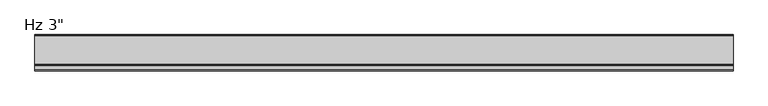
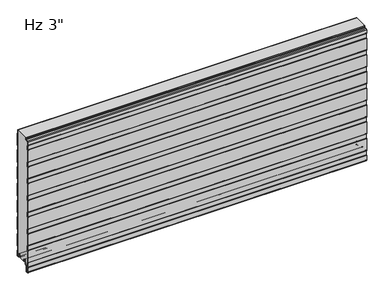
"""IFC4 building model written with IfcOpenShell, lengths in millimetres: plate geometry."""

from ifc_helpers import new_model, si_unit, point, frame, frame_2d, origin, place, context, project, spatial, polyline, circle_curve, trimmed, segment, composite_curve, outline, extrude, source, transform, mapped, element, save
from ifc_brep_helpers import plane_surface, cylinder_surface, revolved_surface, advanced_brep


def plate_3ed9eecc(model_context):
    return source(origin(), model_context, "Body", "SolidModel", [
        advanced_brep(
        [(-730.0, -17.0015368, 2.0313088), (-730.0, -18.00154, 1.0313116), (-730.0, -19.0015313, 2.0313088), (-730.0, -19.0015314, 6.0315125), (-730.0, -18.0015368, 6.0315125), (-730.0, -18.0015368, 8.7237223), (-730.0, -14.7015411, 12.023718), (-730.0, -10.3015499, 12.023718), (-730.0, -7.0015544, 8.7237225), (-730.0, -7.0015544, -1.6962564), (-730.0, -5.2315602, -3.4662506), (-730.0, -1.0000126, -3.4662506), (-730.0, -1.0000126, 21.034026), (-730.0, -2.2002516, 22.4196686), (-730.0, -2.2002516, 41.7948349), (-730.0, -1.0000209, 43.1804679), (-730.0, -1.0000209, 97.2338833), (-730.0, -2.2002516, 98.6195162), (-730.0, -2.2002516, 117.9946825), (-730.0, -1.0000209, 119.3803155), (-730.0, -1.0000209, 173.4337309), (-730.0, -2.2002516, 174.8193638), (-730.0, -2.2002516, 194.1945301), (-730.0, -1.0000209, 195.5801631), (-730.0, -1.0000209, 249.6335785), (-730.0, -2.2002516, 251.0192114), (-730.0, -2.2002516, 270.3943777), (-730.0, -1.0000209, 271.7800107), (-730.0, -1.0000209, 325.8334261), (-730.0, -2.2002516, 327.219059), (-730.0, -2.2002516, 346.5942253), (-730.0, -1.0000209, 347.9798583), (-730.0, -1.0000209, 402.0332737), (-730.0, -2.2002516, 403.4189066), (-730.0, -2.2002516, 422.7940729), (-730.0, -1.0000209, 424.1797059), (-730.0, -1.0000209, 478.2331213), (-730.0, -2.2002516, 479.6187542), (-730.0, -2.2002516, 498.9939205), (-730.0, -1.0000209, 500.3795535), (-730.0, -1.0000209, 554.4329689), (-730.0, -2.2002516, 555.8186018), (-730.0, -2.2002516, 571.2), (-730.0, -1.2002516, 571.2), (-730.0, -1.2002516, 556.1914823), (-730.0, -0.3418094, 555.2004346), (-730.0, -2.09e-05, 554.2838177), (-730.0, -2.09e-05, 500.5287046), (-730.0, -0.3418094, 499.6120877), (-730.0, -1.2002516, 498.6210401), (-730.0, -1.2002516, 479.9916347), (-730.0, -0.3418094, 479.000587), (-730.0, -2.09e-05, 478.0839701), (-730.0, -2.09e-05, 424.328857), (-730.0, -0.3418094, 423.4122401), (-730.0, -1.2002516, 422.4211925), (-730.0, -1.2002516, 403.7917871), (-730.0, -0.3418094, 402.8007394), (-730.0, -2.09e-05, 401.8841225), (-730.0, -2.09e-05, 348.1290094), (-730.0, -0.3418094, 347.2123925), (-730.0, -1.2002516, 346.2213449), (-730.0, -1.2002516, 327.5919395), (-730.0, -0.3418094, 326.6008918), (-730.0, -2.09e-05, 325.6842749), (-730.0, -2.09e-05, 271.9291618), (-730.0, -0.3418094, 271.0125449), (-730.0, -1.2002516, 270.0214973), (-730.0, -1.2002516, 251.3920919), (-730.0, -0.3418094, 250.4010442), (-730.0, -2.09e-05, 249.4844273), (-730.0, -2.09e-05, 195.7293142), (-730.0, -0.3418094, 194.8126973), (-730.0, -1.2002516, 193.8216497), (-730.0, -1.2002516, 175.1922443), (-730.0, -0.3418094, 174.2011966), (-730.0, -2.09e-05, 173.2845797), (-730.0, -2.09e-05, 119.5294666), (-730.0, -0.3418094, 118.6128497), (-730.0, -1.2002516, 117.6218021), (-730.0, -1.2002516, 98.9923967), (-730.0, -0.3418094, 98.001349), (-730.0, -2.09e-05, 97.0847321), (-730.0, -2.09e-05, 43.329619), (-730.0, -0.3418094, 42.4130021), (-730.0, -1.2002516, 41.4219545), (-730.0, -1.2002516, 22.7925491), (-730.0, -0.3418094, 21.8015014), (-730.0, -2.09e-05, 20.8847931), (-730.0, -1.26e-05, -3.0662545), (-730.0, -1.4000087, -4.4662506), (-730.0, -5.2315602, -4.4662506), (-730.0, -8.0015544, -1.6962564), (-730.0, -8.0015544, 8.7237225), (-730.0, -10.3015499, 11.023718), (-730.0, -14.7015411, 11.023718), (-730.0, -17.0015368, 8.7237223), (730.0, -17.0015368, 2.0313088), (730.0, -17.0015368, 8.7237223), (730.0, -14.7015411, 11.023718), (730.0, -10.3015499, 11.023718), (730.0, -8.0015544, 8.7237225), (730.0, -8.0015544, -1.6962564), (730.0, -5.2315602, -4.4662506), (730.0, -1.4000087, -4.4662506), (730.0, -1.26e-05, -3.0662545), (730.0, -1.26e-05, 20.8848845), (730.0, -0.3418094, 21.8015014), (730.0, -1.2002516, 22.7925491), (730.0, -1.2002516, 41.4219545), (730.0, -0.3418094, 42.4130021), (730.0, -2.09e-05, 43.329619), (730.0, -2.09e-05, 97.0847321), (730.0, -0.3418094, 98.001349), (730.0, -1.2002516, 98.9923967), (730.0, -1.2002516, 117.6218021), (730.0, -0.3418094, 118.6128497), (730.0, -2.09e-05, 119.5294666), (730.0, -2.09e-05, 173.2845797), (730.0, -0.3418094, 174.2011966), (730.0, -1.2002516, 175.1922443), (730.0, -1.2002516, 193.8216497), (730.0, -0.3418094, 194.8126973), (730.0, -2.09e-05, 195.7293142), (730.0, -2.09e-05, 249.4844273), (730.0, -0.3418094, 250.4010442), (730.0, -1.2002516, 251.3920919), (730.0, -1.2002516, 270.0214973), (730.0, -0.3418094, 271.0125449), (730.0, -2.09e-05, 271.9291618), (730.0, -2.09e-05, 325.6842749), (730.0, -0.3418094, 326.6008918), (730.0, -1.2002516, 327.5919395), (730.0, -1.2002516, 346.2213449), (730.0, -0.3418094, 347.2123925), (730.0, -2.09e-05, 348.1290094), (730.0, -2.09e-05, 401.8841225), (730.0, -0.3418094, 402.8007394), (730.0, -1.2002516, 403.7917871), (730.0, -1.2002516, 422.4211925), (730.0, -0.3418094, 423.4122401), (730.0, -2.09e-05, 424.328857), (730.0, -2.09e-05, 478.0839701), (730.0, -0.3418094, 479.000587), (730.0, -1.2002516, 479.9916347), (730.0, -1.2002516, 498.6210401), (730.0, -0.3418094, 499.6120877), (730.0, -2.09e-05, 500.5287046), (730.0, -2.09e-05, 554.2838177), (730.0, -0.3418094, 555.2004346), (730.0, -1.2002516, 556.1914823), (730.0, -1.2002516, 571.2), (730.0, -2.2002516, 571.2), (730.0, -2.2002516, 555.8186018), (730.0, -1.0000209, 554.4329689), (730.0, -1.0000209, 500.3795535), (730.0, -2.2002516, 498.9939205), (730.0, -2.2002516, 479.6187542), (730.0, -1.0000209, 478.2331213), (730.0, -1.0000209, 424.1797059), (730.0, -2.2002516, 422.7940729), (730.0, -2.2002516, 403.4189066), (730.0, -1.0000209, 402.0332737), (730.0, -1.0000209, 347.9798583), (730.0, -2.2002516, 346.5942253), (730.0, -2.2002516, 327.219059), (730.0, -1.0000209, 325.8334261), (730.0, -1.0000209, 271.7800107), (730.0, -2.2002516, 270.3943777), (730.0, -2.2002516, 251.0192114), (730.0, -1.0000209, 249.6335785), (730.0, -1.0000209, 195.5801631), (730.0, -2.2002516, 194.1945301), (730.0, -2.2002516, 174.8193638), (730.0, -1.0000209, 173.4337309), (730.0, -1.0000209, 119.3803155), (730.0, -2.2002516, 117.9946825), (730.0, -2.2002516, 98.6195162), (730.0, -1.0000209, 97.2338833), (730.0, -1.0000209, 43.1804679), (730.0, -2.2002516, 41.7948349), (730.0, -2.2002516, 22.4196686), (730.0, -1.0000126, 21.034026), (730.0, -1.0000126, -3.4662506), (730.0, -5.2315602, -3.4662506), (730.0, -7.0015544, -1.6962564), (730.0, -7.0015544, 8.7237225), (730.0, -10.3015499, 12.023718), (730.0, -14.7015411, 12.023718), (730.0, -18.0015368, 8.7237223), (730.0, -18.0015368, 6.0315125), (730.0, -19.0015314, 6.0315125), (730.0, -19.0015314, 2.0313088), (730.0, -18.00154, 1.0313116)],
        [
            (0, 1, circle_curve(frame((-730.0, -18.0015341, 2.0313088), z_axis=(-1.0, 0.0, 0.0), x_axis=(0.0, 0.0, 1.0)), 0.9999973)),
            (1, 2, circle_curve(frame((-730.0, -18.0015341, 2.0313088), z_axis=(-1.0, 0.0, 0.0), x_axis=(0.0, 0.0, 1.0)), 0.9999972)),
            (2, 3),
            (3, 4),
            (4, 5),
            (5, 6, circle_curve(frame((-730.0, -14.7015411, 8.7237223), z_axis=(-1.0, 0.0, 0.0), x_axis=(0.0, 0.0, 1.0)), 3.2999957)),
            (6, 7),
            (7, 8, circle_curve(frame((-730.0, -10.3015499, 8.7237225), z_axis=(-1.0, 0.0, 0.0), x_axis=(0.0, 0.0, 1.0)), 3.2999955)),
            (8, 9),
            (9, 10, circle_curve(frame((-730.0, -5.2315602, -1.6962564), z_axis=(1.0, 0.0, 0.0), x_axis=(0.0, 0.0, 1.0)), 1.7699942)),
            (10, 11),
            (11, 12),
            (12, 13),
            (13, 14),
            (14, 15),
            (15, 16),
            (16, 17),
            (17, 18),
            (18, 19),
            (19, 20),
            (20, 21),
            (21, 22),
            (22, 23),
            (23, 24),
            (24, 25),
            (25, 26),
            (26, 27),
            (27, 28),
            (28, 29),
            (29, 30),
            (30, 31),
            (31, 32),
            (32, 33),
            (33, 34),
            (34, 35),
            (35, 36),
            (36, 37),
            (37, 38),
            (38, 39),
            (39, 40),
            (40, 41),
            (41, 42),
            (42, 43),
            (43, 44),
            (44, 45),
            (45, 46, circle_curve(frame((-730.0, -1.4000181, 554.2838177), z_axis=(-1.0, 0.0, 0.0), x_axis=(0.0, 0.0, 1.0)), 1.3999972)),
            (46, 47),
            (47, 48, circle_curve(frame((-730.0, -1.4000181, 500.5287046), z_axis=(-1.0, 0.0, 0.0), x_axis=(0.0, 0.0, 1.0)), 1.3999972)),
            (48, 49),
            (49, 50),
            (50, 51),
            (51, 52, circle_curve(frame((-730.0, -1.4000181, 478.0839701), z_axis=(-1.0, 0.0, 0.0), x_axis=(0.0, 0.0, 1.0)), 1.3999972)),
            (52, 53),
            (53, 54, circle_curve(frame((-730.0, -1.4000181, 424.328857), z_axis=(-1.0, 0.0, 0.0), x_axis=(0.0, 0.0, 1.0)), 1.3999972)),
            (54, 55),
            (55, 56),
            (56, 57),
            (57, 58, circle_curve(frame((-730.0, -1.4000181, 401.8841225), z_axis=(-1.0, 0.0, 0.0), x_axis=(0.0, 0.0, 1.0)), 1.3999972)),
            (58, 59),
            (59, 60, circle_curve(frame((-730.0, -1.4000181, 348.1290094), z_axis=(-1.0, 0.0, 0.0), x_axis=(0.0, 0.0, 1.0)), 1.3999972)),
            (60, 61),
            (61, 62),
            (62, 63),
            (63, 64, circle_curve(frame((-730.0, -1.4000181, 325.6842749), z_axis=(-1.0, 0.0, 0.0), x_axis=(0.0, 0.0, 1.0)), 1.3999972)),
            (64, 65),
            (65, 66, circle_curve(frame((-730.0, -1.4000181, 271.9291618), z_axis=(-1.0, 0.0, 0.0), x_axis=(0.0, 0.0, 1.0)), 1.3999972)),
            (66, 67),
            (67, 68),
            (68, 69),
            (69, 70, circle_curve(frame((-730.0, -1.4000181, 249.4844273), z_axis=(-1.0, 0.0, 0.0), x_axis=(0.0, 0.0, 1.0)), 1.3999972)),
            (70, 71),
            (71, 72, circle_curve(frame((-730.0, -1.4000181, 195.7293142), z_axis=(-1.0, 0.0, 0.0), x_axis=(0.0, 0.0, 1.0)), 1.3999972)),
            (72, 73),
            (73, 74),
            (74, 75),
            (75, 76, circle_curve(frame((-730.0, -1.4000181, 173.2845797), z_axis=(-1.0, 0.0, 0.0), x_axis=(0.0, 0.0, 1.0)), 1.3999972)),
            (76, 77),
            (77, 78, circle_curve(frame((-730.0, -1.4000181, 119.5294666), z_axis=(-1.0, 0.0, 0.0), x_axis=(0.0, 0.0, 1.0)), 1.3999972)),
            (78, 79),
            (79, 80),
            (80, 81),
            (81, 82, circle_curve(frame((-730.0, -1.4000181, 97.0847321), z_axis=(-1.0, 0.0, 0.0), x_axis=(0.0, 0.0, 1.0)), 1.3999972)),
            (82, 83),
            (83, 84, circle_curve(frame((-730.0, -1.4000181, 43.329619), z_axis=(-1.0, 0.0, 0.0), x_axis=(0.0, 0.0, 1.0)), 1.3999972)),
            (84, 85),
            (85, 86),
            (86, 87),
            (87, 88, circle_curve(frame((-730.0, -1.4000181, 20.8848845), z_axis=(-1.0, 0.0, 0.0), x_axis=(0.0, 0.0, 1.0)), 1.3999972)),
            (88, 89),
            (89, 90, circle_curve(frame((-730.0, -1.4000087, -3.0662545), z_axis=(-1.0, 0.0, 0.0), x_axis=(0.0, 0.0, 1.0)), 1.3999962)),
            (90, 91),
            (91, 92, circle_curve(frame((-730.0, -5.2315602, -1.6962564), z_axis=(-1.0, 0.0, 0.0), x_axis=(0.0, 0.0, 1.0)), 2.7699942)),
            (92, 93),
            (93, 94, circle_curve(frame((-730.0, -10.3015499, 8.7237225), z_axis=(1.0, 0.0, 0.0), x_axis=(0.0, 0.0, 1.0)), 2.2999955)),
            (94, 95),
            (95, 96, circle_curve(frame((-730.0, -14.7015411, 8.7237223), z_axis=(1.0, 0.0, 0.0), x_axis=(0.0, 0.0, 1.0)), 2.2999957)),
            (96, 0),
            (97, 98),
            (98, 99, circle_curve(frame((730.0, -14.7015411, 8.7237223), z_axis=(-1.0, 0.0, 0.0), x_axis=(0.0, 0.0, 1.0)), 2.2999957)),
            (99, 100),
            (100, 101, circle_curve(frame((730.0, -10.3015499, 8.7237225), z_axis=(-1.0, 0.0, 0.0), x_axis=(0.0, 0.0, 1.0)), 2.2999955)),
            (101, 102),
            (102, 103, circle_curve(frame((730.0, -5.2315602, -1.6962564), z_axis=(1.0, 0.0, 0.0), x_axis=(0.0, 0.0, 1.0)), 2.7699942)),
            (103, 104),
            (104, 105, circle_curve(frame((730.0, -1.4000087, -3.0662545), z_axis=(1.0, 0.0, 0.0), x_axis=(0.0, 0.0, 1.0)), 1.3999962)),
            (105, 106),
            (106, 107, circle_curve(frame((730.0, -1.4000181, 20.8848845), z_axis=(1.0, 0.0, 0.0), x_axis=(0.0, 0.0, 1.0)), 1.3999972)),
            (107, 108),
            (108, 109),
            (109, 110),
            (110, 111, circle_curve(frame((730.0, -1.4000181, 43.329619), z_axis=(1.0, 0.0, 0.0), x_axis=(0.0, 0.0, 1.0)), 1.3999972)),
            (111, 112),
            (112, 113, circle_curve(frame((730.0, -1.4000181, 97.0847321), z_axis=(1.0, 0.0, 0.0), x_axis=(0.0, 0.0, 1.0)), 1.3999972)),
            (113, 114),
            (114, 115),
            (115, 116),
            (116, 117, circle_curve(frame((730.0, -1.4000181, 119.5294666), z_axis=(1.0, 0.0, 0.0), x_axis=(0.0, 0.0, 1.0)), 1.3999972)),
            (117, 118),
            (118, 119, circle_curve(frame((730.0, -1.4000181, 173.2845797), z_axis=(1.0, 0.0, 0.0), x_axis=(0.0, 0.0, 1.0)), 1.3999972)),
            (119, 120),
            (120, 121),
            (121, 122),
            (122, 123, circle_curve(frame((730.0, -1.4000181, 195.7293142), z_axis=(1.0, 0.0, 0.0), x_axis=(0.0, 0.0, 1.0)), 1.3999972)),
            (123, 124),
            (124, 125, circle_curve(frame((730.0, -1.4000181, 249.4844273), z_axis=(1.0, 0.0, 0.0), x_axis=(0.0, 0.0, 1.0)), 1.3999972)),
            (125, 126),
            (126, 127),
            (127, 128),
            (128, 129, circle_curve(frame((730.0, -1.4000181, 271.9291618), z_axis=(1.0, 0.0, 0.0), x_axis=(0.0, 0.0, 1.0)), 1.3999972)),
            (129, 130),
            (130, 131, circle_curve(frame((730.0, -1.4000181, 325.6842749), z_axis=(1.0, 0.0, 0.0), x_axis=(0.0, 0.0, 1.0)), 1.3999972)),
            (131, 132),
            (132, 133),
            (133, 134),
            (134, 135, circle_curve(frame((730.0, -1.4000181, 348.1290094), z_axis=(1.0, 0.0, 0.0), x_axis=(0.0, 0.0, 1.0)), 1.3999972)),
            (135, 136),
            (136, 137, circle_curve(frame((730.0, -1.4000181, 401.8841225), z_axis=(1.0, 0.0, 0.0), x_axis=(0.0, 0.0, 1.0)), 1.3999972)),
            (137, 138),
            (138, 139),
            (139, 140),
            (140, 141, circle_curve(frame((730.0, -1.4000181, 424.328857), z_axis=(1.0, 0.0, 0.0), x_axis=(0.0, 0.0, 1.0)), 1.3999972)),
            (141, 142),
            (142, 143, circle_curve(frame((730.0, -1.4000181, 478.0839701), z_axis=(1.0, 0.0, 0.0), x_axis=(0.0, 0.0, 1.0)), 1.3999972)),
            (143, 144),
            (144, 145),
            (145, 146),
            (146, 147, circle_curve(frame((730.0, -1.4000181, 500.5287046), z_axis=(1.0, 0.0, 0.0), x_axis=(0.0, 0.0, 1.0)), 1.3999972)),
            (147, 148),
            (148, 149, circle_curve(frame((730.0, -1.4000181, 554.2838177), z_axis=(1.0, 0.0, 0.0), x_axis=(0.0, 0.0, 1.0)), 1.3999972)),
            (149, 150),
            (150, 151),
            (151, 152),
            (152, 153),
            (153, 154),
            (154, 155),
            (155, 156),
            (156, 157),
            (157, 158),
            (158, 159),
            (159, 160),
            (160, 161),
            (161, 162),
            (162, 163),
            (163, 164),
            (164, 165),
            (165, 166),
            (166, 167),
            (167, 168),
            (168, 169),
            (169, 170),
            (170, 171),
            (171, 172),
            (172, 173),
            (173, 174),
            (174, 175),
            (175, 176),
            (176, 177),
            (177, 178),
            (178, 179),
            (179, 180),
            (180, 181),
            (181, 182),
            (182, 183),
            (183, 184),
            (184, 185, circle_curve(frame((730.0, -5.2315602, -1.6962564), z_axis=(-1.0, 0.0, 0.0), x_axis=(0.0, 0.0, 1.0)), 1.7699942)),
            (185, 186),
            (186, 187, circle_curve(frame((730.0, -10.3015499, 8.7237225), z_axis=(1.0, 0.0, 0.0), x_axis=(0.0, 0.0, 1.0)), 3.2999955)),
            (187, 188),
            (188, 189, circle_curve(frame((730.0, -14.7015411, 8.7237223), z_axis=(1.0, 0.0, 0.0), x_axis=(0.0, 0.0, 1.0)), 3.2999957)),
            (189, 190),
            (190, 191),
            (191, 192),
            (192, 193, circle_curve(frame((730.0, -18.0015341, 2.0313088), z_axis=(1.0, 0.0, 0.0), x_axis=(0.0, 0.0, 1.0)), 0.9999972)),
            (193, 97, circle_curve(frame((730.0, -18.0015341, 2.0313088), z_axis=(1.0, 0.0, 0.0), x_axis=(0.0, 0.0, 1.0)), 0.9999973)),
            (96, 98),
            (97, 0),
            (95, 99),
            (94, 100),
            (93, 101),
            (92, 102),
            (91, 103),
            (90, 104),
            (89, 105),
            (88, 106),
            (70, 124),
            (123, 71),
            (87, 107),
            (86, 108),
            (85, 109),
            (83, 111),
            (110, 84),
            (81, 113),
            (112, 82),
            (66, 128),
            (127, 67),
            (122, 72),
            (121, 73),
            (76, 118),
            (117, 77),
            (69, 125),
            (68, 126),
            (65, 129),
            (116, 78),
            (79, 115),
            (114, 80),
            (75, 119),
            (74, 120),
            (2, 192),
            (191, 3),
            (1, 193),
            (64, 130),
            (63, 131),
            (62, 132),
            (61, 133),
            (60, 134),
            (59, 135),
            (58, 136),
            (31, 163),
            (162, 32),
            (30, 164),
            (29, 165),
            (28, 166),
            (27, 167),
            (26, 168),
            (25, 169),
            (24, 170),
            (23, 171),
            (22, 172),
            (21, 173),
            (20, 174),
            (19, 175),
            (18, 176),
            (17, 177),
            (16, 178),
            (15, 179),
            (14, 180),
            (13, 181),
            (12, 182),
            (11, 183),
            (10, 184),
            (9, 185),
            (8, 186),
            (7, 187),
            (6, 188),
            (5, 189),
            (4, 190),
            (42, 152),
            (151, 43),
            (57, 137),
            (56, 138),
            (54, 140),
            (139, 55),
            (51, 143),
            (142, 52),
            (50, 144),
            (48, 146),
            (145, 49),
            (45, 149),
            (148, 46),
            (44, 150),
            (41, 153),
            (40, 154),
            (39, 155),
            (38, 156),
            (53, 141),
            (47, 147),
            (37, 157),
            (36, 158),
            (35, 159),
            (34, 160),
            (33, 161),
        ],
        [
            plane_surface(frame((-730.0, -2.09e-05, 304.8), z_axis=(-1.0, 0.0, 0.0), x_axis=(0.0, 1.0, 0.0))),
            plane_surface(frame((730.0, -2.09e-05, 304.8), z_axis=(1.0, 0.0, 0.0), x_axis=(0.0, 1.0, 0.0))),
            plane_surface(frame((-730.0, -17.0015368, 2.0313088), z_axis=(0.0, 1.0, 0.0), x_axis=(1.0, 0.0, 0.0))),
            revolved_surface(polyline([(730.0, -14.7015411, 11.023718), (-730.0, -14.7015411, 11.023718)]), (-730.0, -14.7015411, 8.7237223), (1.0, 0.0, 0.0)),
            plane_surface(frame((-730.0, -14.7015411, 11.023718), z_axis=(0.0, 0.0, -1.0), x_axis=(1.0, 0.0, 0.0))),
            revolved_surface(polyline([(730.0, -10.3015499, 11.023717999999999), (-730.0, -10.3015499, 11.023717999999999)]), (-730.0, -10.3015499, 8.7237225), (1.0, 0.0, 0.0)),
            plane_surface(frame((-730.0, -8.0015544, 8.7237225), z_axis=(0.0, -1.0, 0.0), x_axis=(1.0, 0.0, 0.0))),
            cylinder_surface(frame((-730.0, -5.2315602, -1.6962564), z_axis=(-1.0, 0.0, 0.0), x_axis=(0.0, 0.0, 1.0)), 2.7699942),
            plane_surface(frame((-730.0, -5.2315602, -4.4662506), z_axis=(0.0, 0.0, -1.0), x_axis=(1.0, 0.0, 0.0))),
            cylinder_surface(frame((-730.0, -1.4000087, -3.0662545), z_axis=(-1.0, 0.0, 0.0), x_axis=(0.0, 0.0, 1.0)), 1.3999962),
            plane_surface(frame((-730.0, -1.26e-05, -3.0662545), z_axis=(0.0, 1.0, 0.0), x_axis=(1.0, 0.0, 0.0))),
            plane_surface(frame((-730.0, -2.09e-05, 195.7293142), z_axis=(0.0, 1.0, 0.0), x_axis=(1.0, 0.0, 0.0))),
            cylinder_surface(frame((-730.0, -1.4000181, 20.8848845), z_axis=(-1.0, 0.0, 0.0), x_axis=(0.0, 0.0, 1.0)), 1.3999972),
            plane_surface(frame((-730.0, -0.3418094, 21.8015014), z_axis=(0.0, 0.755864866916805, 0.6547276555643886), x_axis=(1.0, 0.0, 0.0))),
            plane_surface(frame((-730.0, -1.2002516, 32.1072518), z_axis=(0.0, 1.0, 0.0), x_axis=(1.0, 0.0, 0.0))),
            cylinder_surface(frame((-730.0, -1.4000181, 43.329619), z_axis=(-1.0, 0.0, 0.0), x_axis=(0.0, 0.0, 1.0)), 1.3999972),
            plane_surface(frame((-730.0, -1.2002516, 41.4219545), z_axis=(0.0, 0.755864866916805, -0.6547276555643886), x_axis=(1.0, 0.0, 0.0))),
            cylinder_surface(frame((-730.0, -1.4000181, 97.0847321), z_axis=(-1.0, 0.0, 0.0), x_axis=(0.0, 0.0, 1.0)), 1.3999972),
            plane_surface(frame((-730.0, -1.2002516, 270.0214973), z_axis=(0.0, 0.755864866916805, -0.6547276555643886), x_axis=(1.0, 0.0, 0.0))),
            cylinder_surface(frame((-730.0, -1.4000181, 195.7293142), z_axis=(-1.0, 0.0, 0.0), x_axis=(0.0, 0.0, 1.0)), 1.3999972),
            plane_surface(frame((-730.0, -1.2002516, 193.8216497), z_axis=(0.0, 0.755864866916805, -0.6547276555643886), x_axis=(1.0, 0.0, 0.0))),
            plane_surface(frame((-730.0, -2.09e-05, 119.5294666), z_axis=(0.0, 1.0, 0.0), x_axis=(1.0, 0.0, 0.0))),
            cylinder_surface(frame((-730.0, -1.4000181, 249.4844273), z_axis=(-1.0, 0.0, 0.0), x_axis=(0.0, 0.0, 1.0)), 1.3999972),
            plane_surface(frame((-730.0, -0.3418094, 250.4010442), z_axis=(0.0, 0.755864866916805, 0.6547276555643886), x_axis=(1.0, 0.0, 0.0))),
            plane_surface(frame((-730.0, -1.2002516, 260.7067946), z_axis=(0.0, 1.0, 0.0), x_axis=(1.0, 0.0, 0.0))),
            cylinder_surface(frame((-730.0, -1.4000181, 271.9291618), z_axis=(-1.0, 0.0, 0.0), x_axis=(0.0, 0.0, 1.0)), 1.3999972),
            cylinder_surface(frame((-730.0, -1.4000181, 119.5294666), z_axis=(-1.0, 0.0, 0.0), x_axis=(0.0, 0.0, 1.0)), 1.3999972),
            plane_surface(frame((-730.0, -1.2002516, 108.3070994), z_axis=(0.0, 1.0, 0.0), x_axis=(1.0, 0.0, 0.0))),
            plane_surface(frame((-730.0, -0.3418094, 98.001349), z_axis=(0.0, 0.755864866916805, 0.6547276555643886), x_axis=(1.0, 0.0, 0.0))),
            plane_surface(frame((-730.0, -1.2002516, 117.6218021), z_axis=(0.0, 0.755864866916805, -0.6547276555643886), x_axis=(1.0, 0.0, 0.0))),
            plane_surface(frame((-730.0, -2.09e-05, 43.329619), z_axis=(0.0, 1.0, 0.0), x_axis=(1.0, 0.0, 0.0))),
            cylinder_surface(frame((-730.0, -1.4000181, 173.2845797), z_axis=(-1.0, 0.0, 0.0), x_axis=(0.0, 0.0, 1.0)), 1.3999972),
            plane_surface(frame((-730.0, -0.3418094, 174.2011966), z_axis=(0.0, 0.755864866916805, 0.6547276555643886), x_axis=(1.0, 0.0, 0.0))),
            plane_surface(frame((-730.0, -1.2002516, 184.506947), z_axis=(0.0, 1.0, 0.0), x_axis=(1.0, 0.0, 0.0))),
            plane_surface(frame((-730.0, -19.0015314, 6.0315125), z_axis=(0.0, -1.0, 0.0), x_axis=(1.0, 0.0, 0.0))),
            cylinder_surface(frame((-730.0, -18.0015341, 2.0313088), z_axis=(-1.0, 0.0, 0.0), x_axis=(0.0, 0.0, 1.0)), 0.9999972),
            cylinder_surface(frame((-730.0, -18.0015341, 2.0313088), z_axis=(-1.0, 0.0, 0.0), x_axis=(0.0, 0.0, 1.0)), 0.9999973),
            plane_surface(frame((-730.0, -2.09e-05, 271.9291618), z_axis=(0.0, 1.0, 0.0), x_axis=(1.0, 0.0, 0.0))),
            cylinder_surface(frame((-730.0, -1.4000181, 325.6842749), z_axis=(-1.0, 0.0, 0.0), x_axis=(0.0, 0.0, 1.0)), 1.3999972),
            plane_surface(frame((-730.0, -0.3418094, 326.6008918), z_axis=(0.0, 0.755864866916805, 0.6547276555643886), x_axis=(1.0, 0.0, 0.0))),
            plane_surface(frame((-730.0, -1.2002516, 336.9066422), z_axis=(0.0, 1.0, 0.0), x_axis=(1.0, 0.0, 0.0))),
            plane_surface(frame((-730.0, -1.2002516, 346.2213449), z_axis=(0.0, 0.755864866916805, -0.6547276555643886), x_axis=(1.0, 0.0, 0.0))),
            cylinder_surface(frame((-730.0, -1.4000181, 348.1290094), z_axis=(-1.0, 0.0, 0.0), x_axis=(0.0, 0.0, 1.0)), 1.3999972),
            plane_surface(frame((-730.0, -2.09e-05, 348.1290094), z_axis=(0.0, 1.0, 0.0), x_axis=(1.0, 0.0, 0.0))),
            plane_surface(frame((-730.0, -1.0000209, 402.0332737), z_axis=(0.0, -1.0, 0.0), x_axis=(1.0, 0.0, 0.0))),
            plane_surface(frame((-730.0, -1.0000209, 347.9798583), z_axis=(0.0, -0.755864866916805, 0.6547276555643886), x_axis=(1.0, 0.0, 0.0))),
            plane_surface(frame((-730.0, -2.2002516, 346.5942253), z_axis=(0.0, -1.0, 0.0), x_axis=(1.0, 0.0, 0.0))),
            plane_surface(frame((-730.0, -2.2002516, 327.219059), z_axis=(0.0, -0.755864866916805, -0.6547276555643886), x_axis=(1.0, 0.0, 0.0))),
            plane_surface(frame((-730.0, -1.0000209, 325.8334261), z_axis=(0.0, -1.0, 0.0), x_axis=(1.0, 0.0, 0.0))),
            plane_surface(frame((-730.0, -1.0000209, 271.7800107), z_axis=(0.0, -0.755864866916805, 0.6547276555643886), x_axis=(1.0, 0.0, 0.0))),
            plane_surface(frame((-730.0, -2.2002516, 270.3943777), z_axis=(0.0, -1.0, 0.0), x_axis=(1.0, 0.0, 0.0))),
            plane_surface(frame((-730.0, -2.2002516, 251.0192114), z_axis=(0.0, -0.755864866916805, -0.6547276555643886), x_axis=(1.0, 0.0, 0.0))),
            plane_surface(frame((-730.0, -1.0000209, 249.6335785), z_axis=(0.0, -1.0, 0.0), x_axis=(1.0, 0.0, 0.0))),
            plane_surface(frame((-730.0, -1.0000209, 195.5801631), z_axis=(0.0, -0.755864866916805, 0.6547276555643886), x_axis=(1.0, 0.0, 0.0))),
            plane_surface(frame((-730.0, -2.2002516, 194.1945301), z_axis=(0.0, -1.0, 0.0), x_axis=(1.0, 0.0, 0.0))),
            plane_surface(frame((-730.0, -2.2002516, 174.8193638), z_axis=(0.0, -0.755864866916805, -0.6547276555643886), x_axis=(1.0, 0.0, 0.0))),
            plane_surface(frame((-730.0, -1.0000209, 173.4337309), z_axis=(0.0, -1.0, 0.0), x_axis=(1.0, 0.0, 0.0))),
            plane_surface(frame((-730.0, -1.0000209, 119.3803155), z_axis=(0.0, -0.755864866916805, 0.6547276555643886), x_axis=(1.0, 0.0, 0.0))),
            plane_surface(frame((-730.0, -2.2002516, 117.9946825), z_axis=(0.0, -1.0, 0.0), x_axis=(1.0, 0.0, 0.0))),
            plane_surface(frame((-730.0, -2.2002516, 98.6195162), z_axis=(0.0, -0.755864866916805, -0.6547276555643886), x_axis=(1.0, 0.0, 0.0))),
            plane_surface(frame((-730.0, -1.0000209, 97.2338833), z_axis=(0.0, -1.0, 0.0), x_axis=(1.0, 0.0, 0.0))),
            plane_surface(frame((-730.0, -1.0000209, 43.1804679), z_axis=(0.0, -0.755864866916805, 0.6547276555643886), x_axis=(1.0, 0.0, 0.0))),
            plane_surface(frame((-730.0, -2.2002516, 41.7948349), z_axis=(0.0, -1.0, 0.0), x_axis=(1.0, 0.0, 0.0))),
            plane_surface(frame((-730.0, -2.2002516, 22.4196686), z_axis=(0.0, -0.755864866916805, -0.6547276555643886), x_axis=(1.0, 0.0, 0.0))),
            plane_surface(frame((-730.0, -1.0000126, 21.034026), z_axis=(0.0, -1.0, 0.0), x_axis=(1.0, 0.0, 0.0))),
            plane_surface(frame((-730.0, -1.0000126, -3.4662506), z_axis=(0.0, 0.0, 1.0), x_axis=(1.0, 0.0, 0.0))),
            revolved_surface(polyline([(730.0, -5.2315602, 0.07373779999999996), (-730.0, -5.2315602, 0.07373779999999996)]), (-730.0, -5.2315602, -1.6962564), (1.0, 0.0, 0.0)),
            plane_surface(frame((-730.0, -7.0015544, -1.6962564), z_axis=(0.0, 1.0, 0.0), x_axis=(1.0, 0.0, 0.0))),
            cylinder_surface(frame((-730.0, -10.3015499, 8.7237225), z_axis=(-1.0, 0.0, 0.0), x_axis=(0.0, 0.0, 1.0)), 3.2999955),
            plane_surface(frame((-730.0, -10.3015499, 12.023718), z_axis=(0.0, 0.0, 1.0), x_axis=(1.0, 0.0, 0.0))),
            cylinder_surface(frame((-730.0, -14.7015411, 8.7237223), z_axis=(-1.0, 0.0, 0.0), x_axis=(0.0, 0.0, 1.0)), 3.2999957),
            plane_surface(frame((-730.0, -18.0015368, 8.7237223), z_axis=(0.0, -1.0, 0.0), x_axis=(1.0, 0.0, 0.0))),
            plane_surface(frame((-730.0, -18.0015368, 6.0315125), z_axis=(0.0, 0.0, 1.0), x_axis=(1.0, 0.0, 0.0))),
            plane_surface(frame((730.0, 9.9999791, 571.2), z_axis=(0.0, 0.0, 1.0), x_axis=(-1.0, 0.0, 0.0))),
            cylinder_surface(frame((-730.0, -1.4000181, 401.8841225), z_axis=(-1.0, 0.0, 0.0), x_axis=(0.0, 0.0, 1.0)), 1.3999972),
            plane_surface(frame((-730.0, -0.3418094, 402.8007394), z_axis=(0.0, 0.755864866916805, 0.6547276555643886), x_axis=(1.0, 0.0, 0.0))),
            plane_surface(frame((-730.0, -1.2002516, 422.4211925), z_axis=(0.0, 0.755864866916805, -0.6547276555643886), x_axis=(1.0, 0.0, 0.0))),
            cylinder_surface(frame((-730.0, -1.4000181, 478.0839701), z_axis=(-1.0, 0.0, 0.0), x_axis=(0.0, 0.0, 1.0)), 1.3999972),
            plane_surface(frame((-730.0, -0.3418094, 479.000587), z_axis=(0.0, 0.755864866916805, 0.6547276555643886), x_axis=(1.0, 0.0, 0.0))),
            plane_surface(frame((-730.0, -1.2002516, 498.6210401), z_axis=(0.0, 0.755864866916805, -0.6547276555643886), x_axis=(1.0, 0.0, 0.0))),
            cylinder_surface(frame((-730.0, -1.4000181, 554.2838177), z_axis=(-1.0, 0.0, 0.0), x_axis=(0.0, 0.0, 1.0)), 1.3999972),
            plane_surface(frame((-730.0, -0.3418094, 555.2004346), z_axis=(0.0, 0.755864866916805, 0.6547276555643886), x_axis=(1.0, 0.0, 0.0))),
            plane_surface(frame((-730.0, -2.2002516, 575.1937681), z_axis=(0.0, -1.0, 0.0), x_axis=(1.0, 0.0, 0.0))),
            plane_surface(frame((-730.0, -2.2002516, 555.8186018), z_axis=(0.0, -0.755864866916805, -0.6547276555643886), x_axis=(1.0, 0.0, 0.0))),
            plane_surface(frame((-730.0, -1.0000209, 554.4329689), z_axis=(0.0, -1.0, 0.0), x_axis=(1.0, 0.0, 0.0))),
            plane_surface(frame((-730.0, -1.0000209, 500.3795535), z_axis=(0.0, -0.755864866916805, 0.6547276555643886), x_axis=(1.0, 0.0, 0.0))),
            plane_surface(frame((-730.0, -1.2002516, 413.1064898), z_axis=(0.0, 1.0, 0.0), x_axis=(1.0, 0.0, 0.0))),
            cylinder_surface(frame((-730.0, -1.4000181, 424.328857), z_axis=(-1.0, 0.0, 0.0), x_axis=(0.0, 0.0, 1.0)), 1.3999972),
            plane_surface(frame((-730.0, -2.09e-05, 424.328857), z_axis=(0.0, 1.0, 0.0), x_axis=(1.0, 0.0, 0.0))),
            plane_surface(frame((-730.0, -1.2002516, 489.3063374), z_axis=(0.0, 1.0, 0.0), x_axis=(1.0, 0.0, 0.0))),
            cylinder_surface(frame((-730.0, -1.4000181, 500.5287046), z_axis=(-1.0, 0.0, 0.0), x_axis=(0.0, 0.0, 1.0)), 1.3999972),
            plane_surface(frame((-730.0, -2.09e-05, 500.5287046), z_axis=(0.0, 1.0, 0.0), x_axis=(1.0, 0.0, 0.0))),
            plane_surface(frame((-730.0, -1.2002516, 565.506185), z_axis=(0.0, 1.0, 0.0), x_axis=(1.0, 0.0, 0.0))),
            plane_surface(frame((-730.0, -2.2002516, 498.9939205), z_axis=(0.0, -1.0, 0.0), x_axis=(1.0, 0.0, 0.0))),
            plane_surface(frame((-730.0, -2.2002516, 479.6187542), z_axis=(0.0, -0.755864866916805, -0.6547276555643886), x_axis=(1.0, 0.0, 0.0))),
            plane_surface(frame((-730.0, -1.0000209, 478.2331213), z_axis=(0.0, -1.0, 0.0), x_axis=(1.0, 0.0, 0.0))),
            plane_surface(frame((-730.0, -1.0000209, 424.1797059), z_axis=(0.0, -0.755864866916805, 0.6547276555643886), x_axis=(1.0, 0.0, 0.0))),
            plane_surface(frame((-730.0, -2.2002516, 422.7940729), z_axis=(0.0, -1.0, 0.0), x_axis=(1.0, 0.0, 0.0))),
            plane_surface(frame((-730.0, -2.2002516, 403.4189066), z_axis=(0.0, -0.755864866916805, -0.6547276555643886), x_axis=(1.0, 0.0, 0.0))),
        ],
        [
            (0, [[1, 2, 3, 4, 5, 6, 7, 8, 9, 10, 11, 12, 13, 14, 15, 16, 17, 18, 19, 20, 21, 22, 23, 24, 25, 26, 27, 28, 29, 30, 31, 32, 33, 34, 35, 36, 37, 38, 39, 40, 41, 42, 43, 44, 45, 46, 47, 48, 49, 50, 51, 52, 53, 54, 55, 56, 57, 58, 59, 60, 61, 62, 63, 64, 65, 66, 67, 68, 69, 70, 71, 72, 73, 74, 75, 76, 77, 78, 79, 80, 81, 82, 83, 84, 85, 86, 87, 88, 89, 90, 91, 92, 93, 94, 95, 96, 97]]),
            (1, [[98, 99, 100, 101, 102, 103, 104, 105, 106, 107, 108, 109, 110, 111, 112, 113, 114, 115, 116, 117, 118, 119, 120, 121, 122, 123, 124, 125, 126, 127, 128, 129, 130, 131, 132, 133, 134, 135, 136, 137, 138, 139, 140, 141, 142, 143, 144, 145, 146, 147, 148, 149, 150, 151, 152, 153, 154, 155, 156, 157, 158, 159, 160, 161, 162, 163, 164, 165, 166, 167, 168, 169, 170, 171, 172, 173, 174, 175, 176, 177, 178, 179, 180, 181, 182, 183, 184, 185, 186, 187, 188, 189, 190, 191, 192, 193, 194]]),
            (2, [[195, -98, 196, -97]]),
            (3, [[197, -99, -195, -96]]),
            (4, [[198, -100, -197, -95]]),
            (5, [[199, -101, -198, -94]]),
            (6, [[200, -102, -199, -93]]),
            (7, [[201, -103, -200, -92]]),
            (8, [[202, -104, -201, -91]]),
            (9, [[203, -105, -202, -90]]),
            (10, [[204, -106, -203, -89]]),
            (11, [[205, -124, 206, -71]]),
            (12, [[207, -107, -204, -88]]),
            (13, [[208, -108, -207, -87]]),
            (14, [[209, -109, -208, -86]]),
            (15, [[210, -111, 211, -84]]),
            (16, [[-211, -110, -209, -85]]),
            (17, [[212, -113, 213, -82]]),
            (18, [[214, -128, 215, -67]]),
            (19, [[-206, -123, 216, -72]]),
            (20, [[-216, -122, 217, -73]]),
            (21, [[218, -118, 219, -77]]),
            (22, [[220, -125, -205, -70]]),
            (23, [[221, -126, -220, -69]]),
            (24, [[-215, -127, -221, -68]]),
            (25, [[222, -129, -214, -66]]),
            (26, [[-219, -117, 223, -78]]),
            (27, [[224, -115, 225, -80]]),
            (28, [[-225, -114, -212, -81]]),
            (29, [[-223, -116, -224, -79]]),
            (30, [[-213, -112, -210, -83]]),
            (31, [[226, -119, -218, -76]]),
            (32, [[227, -120, -226, -75]]),
            (33, [[-217, -121, -227, -74]]),
            (34, [[228, -192, 229, -3]]),
            (35, [[230, -193, -228, -2]]),
            (36, [[-196, -194, -230, -1]]),
            (37, [[231, -130, -222, -65]]),
            (38, [[232, -131, -231, -64]]),
            (39, [[233, -132, -232, -63]]),
            (40, [[234, -133, -233, -62]]),
            (41, [[235, -134, -234, -61]]),
            (42, [[236, -135, -235, -60]]),
            (43, [[237, -136, -236, -59]]),
            (44, [[238, -163, 239, -32]]),
            (45, [[240, -164, -238, -31]]),
            (46, [[241, -165, -240, -30]]),
            (47, [[242, -166, -241, -29]]),
            (48, [[243, -167, -242, -28]]),
            (49, [[244, -168, -243, -27]]),
            (50, [[245, -169, -244, -26]]),
            (51, [[246, -170, -245, -25]]),
            (52, [[247, -171, -246, -24]]),
            (53, [[248, -172, -247, -23]]),
            (54, [[249, -173, -248, -22]]),
            (55, [[250, -174, -249, -21]]),
            (56, [[251, -175, -250, -20]]),
            (57, [[252, -176, -251, -19]]),
            (58, [[253, -177, -252, -18]]),
            (59, [[254, -178, -253, -17]]),
            (60, [[255, -179, -254, -16]]),
            (61, [[256, -180, -255, -15]]),
            (62, [[257, -181, -256, -14]]),
            (63, [[258, -182, -257, -13]]),
            (64, [[259, -183, -258, -12]]),
            (65, [[260, -184, -259, -11]]),
            (66, [[261, -185, -260, -10]]),
            (67, [[262, -186, -261, -9]]),
            (68, [[263, -187, -262, -8]]),
            (69, [[264, -188, -263, -7]]),
            (70, [[265, -189, -264, -6]]),
            (71, [[266, -190, -265, -5]]),
            (72, [[-229, -191, -266, -4]]),
            (73, [[267, -152, 268, -43]]),
            (74, [[269, -137, -237, -58]]),
            (75, [[270, -138, -269, -57]]),
            (76, [[271, -140, 272, -55]]),
            (77, [[273, -143, 274, -52]]),
            (78, [[275, -144, -273, -51]]),
            (79, [[276, -146, 277, -49]]),
            (80, [[278, -149, 279, -46]]),
            (81, [[280, -150, -278, -45]]),
            (82, [[-153, -267, -42, 281]]),
            (83, [[282, -154, -281, -41]]),
            (84, [[283, -155, -282, -40]]),
            (85, [[284, -156, -283, -39]]),
            (86, [[-272, -139, -270, -56]]),
            (87, [[285, -141, -271, -54]]),
            (88, [[-274, -142, -285, -53]]),
            (89, [[-277, -145, -275, -50]]),
            (90, [[286, -147, -276, -48]]),
            (91, [[-279, -148, -286, -47]]),
            (92, [[-44, -268, -151, -280]]),
            (93, [[287, -157, -284, -38]]),
            (94, [[288, -158, -287, -37]]),
            (95, [[289, -159, -288, -36]]),
            (96, [[290, -160, -289, -35]]),
            (97, [[291, -161, -290, -34]]),
            (98, [[-239, -162, -291, -33]]),
        ],
    ),
        extrude(outline(composite_curve([segment(trimmed(circle_curve(frame_2d((-74.7998926, -10.6415934)), 1.3998661), [point((-76.1997587, -10.6415934))], [point((-75.7325165, -9.5976403))], False, "CARTESIAN"), True, "CONTINUOUS"), segment(polyline([(-75.7325165, -9.5976403), (-74.9997902, -8.8649141), (-74.9997902, 10.0260713), (-75.7327558, 10.7590369)]), True, "CONTINUOUS"), segment(trimmed(circle_curve(frame_2d((-74.8000446, 11.8030877)), 1.3999972), [point((-75.7327558, 10.7590369))], [point((-76.2000209, 11.810741))], False, "CARTESIAN"), True, "CONTINUOUS"), segment(polyline([(-76.2000209, 11.810741), (-76.2000209, 65.5582542)]), True, "CONTINUOUS"), segment(trimmed(circle_curve(frame_2d((-74.8000237, 65.5582542)), 1.3999972), [point((-76.2000209, 65.5582542))], [point((-75.7327349, 66.602305))], False, "CARTESIAN"), True, "CONTINUOUS"), segment(polyline([(-75.7327349, 66.602305), (-74.9997902, 67.3352497), (-74.9997902, 86.2259189), (-75.7327558, 86.9588845)]), True, "CONTINUOUS"), segment(trimmed(circle_curve(frame_2d((-74.8000446, 88.0029353)), 1.3999972), [point((-75.7327558, 86.9588845))], [point((-76.2000209, 88.0105886))], False, "CARTESIAN"), True, "CONTINUOUS"), segment(polyline([(-76.2000209, 88.0105886), (-76.2000209, 141.7581018)]), True, "CONTINUOUS"), segment(trimmed(circle_curve(frame_2d((-74.8000237, 141.7581018)), 1.3999972), [point((-76.2000209, 141.7581018))], [point((-75.7327349, 142.8021526))], False, "CARTESIAN"), True, "CONTINUOUS"), segment(polyline([(-75.7327349, 142.8021526), (-74.9997902, 143.5350973), (-74.9997902, 162.4257665), (-75.7327558, 163.1587321)]), True, "CONTINUOUS"), segment(trimmed(circle_curve(frame_2d((-74.8000446, 164.2027829)), 1.3999972), [point((-75.7327558, 163.1587321))], [point((-76.2000209, 164.2104362))], False, "CARTESIAN"), True, "CONTINUOUS"), segment(polyline([(-76.2000209, 164.2104362), (-76.2000209, 217.9579494)]), True, "CONTINUOUS"), segment(trimmed(circle_curve(frame_2d((-74.8000237, 217.9579494)), 1.3999972), [point((-76.2000209, 217.9579494))], [point((-75.7327349, 219.0020002))], False, "CARTESIAN"), True, "CONTINUOUS"), segment(polyline([(-75.7327349, 219.0020002), (-74.9997902, 219.7349449), (-74.9997902, 238.6256141), (-75.7327558, 239.3585797)]), True, "CONTINUOUS"), segment(trimmed(circle_curve(frame_2d((-74.8000446, 240.4026305)), 1.3999972), [point((-75.7327558, 239.3585797))], [point((-76.2000209, 240.4102838))], False, "CARTESIAN"), True, "CONTINUOUS"), segment(polyline([(-76.2000209, 240.4102838), (-76.2000209, 294.157797)]), True, "CONTINUOUS"), segment(trimmed(circle_curve(frame_2d((-74.8000237, 294.157797)), 1.3999972), [point((-76.2000209, 294.157797))], [point((-75.7327349, 295.2018478))], False, "CARTESIAN"), True, "CONTINUOUS"), segment(polyline([(-75.7327349, 295.2018478), (-74.9997902, 295.9347925), (-74.9997902, 314.8254617), (-75.7327558, 315.5584273)]), True, "CONTINUOUS"), segment(trimmed(circle_curve(frame_2d((-74.8000446, 316.6024781)), 1.3999972), [point((-75.7327558, 315.5584273))], [point((-76.2000209, 316.6101314))], False, "CARTESIAN"), True, "CONTINUOUS"), segment(polyline([(-76.2000209, 316.6101314), (-76.2000209, 370.3576446)]), True, "CONTINUOUS"), segment(trimmed(circle_curve(frame_2d((-74.8000237, 370.3576446)), 1.3999972), [point((-76.2000209, 370.3576446))], [point((-75.7327349, 371.4016954))], False, "CARTESIAN"), True, "CONTINUOUS"), segment(polyline([(-75.7327349, 371.4016954), (-74.9997902, 372.1346401), (-74.9997902, 391.0253093), (-75.7327558, 391.7582749)]), True, "CONTINUOUS"), segment(trimmed(circle_curve(frame_2d((-74.8000446, 392.8023257)), 1.3999972), [point((-75.7327558, 391.7582749))], [point((-76.2000209, 392.809979))], False, "CARTESIAN"), True, "CONTINUOUS"), segment(polyline([(-76.2000209, 392.809979), (-76.2000209, 446.5574922)]), True, "CONTINUOUS"), segment(trimmed(circle_curve(frame_2d((-74.8000237, 446.5574922)), 1.3999972), [point((-76.2000209, 446.5574922))], [point((-75.7327349, 447.601543))], False, "CARTESIAN"), True, "CONTINUOUS"), segment(polyline([(-75.7327349, 447.601543), (-74.9997902, 448.3344877), (-74.9997902, 467.2251569), (-75.7327558, 467.9581225)]), True, "CONTINUOUS"), segment(trimmed(circle_curve(frame_2d((-74.8000446, 469.0021733)), 1.3999972), [point((-75.7327558, 467.9581225))], [point((-76.2000209, 469.0098266))], False, "CARTESIAN"), True, "CONTINUOUS"), segment(polyline([(-76.2000209, 469.0098266), (-76.2000209, 522.7573398)]), True, "CONTINUOUS"), segment(trimmed(circle_curve(frame_2d((-74.8000237, 522.7573398)), 1.3999972), [point((-76.2000209, 522.7573398))], [point((-75.7327349, 523.8013906))], False, "CARTESIAN"), True, "CONTINUOUS"), segment(polyline([(-75.7327349, 523.8013906), (-74.9997902, 524.5343353), (-74.9997902, 543.4250045), (-75.7327558, 544.1579701)]), True, "CONTINUOUS"), segment(trimmed(circle_curve(frame_2d((-74.8000446, 545.2020209)), 1.3999972), [point((-75.7327558, 544.1579701))], [point((-76.1991193, 545.2528361))], False, "CARTESIAN"), True, "CONTINUOUS"), segment(polyline([(-76.1991193, 545.2528361), (-76.1991193, 561.1384359)]), True, "CONTINUOUS"), segment(trimmed(circle_curve(frame_2d((-73.2491252, 561.1384359)), 2.9499941), [point((-76.1991193, 561.1384359))], [point((-73.5062341, 564.0772044))], False, "CARTESIAN"), True, "CONTINUOUS"), segment(polyline([(-73.5062341, 564.0772044), (-65.0419377, 564.8177344)]), True, "CONTINUOUS"), segment(trimmed(circle_curve(frame_2d((-65.2188635, 566.8400056)), 2.0299959), [point((-65.0419377, 564.8177344))], [point((-63.1914776, 566.9429135))], True, "CARTESIAN"), True, "CONTINUOUS"), segment(polyline([(-63.1914776, 566.9429135), (-63.1914776, 571.2), (-62.1914776, 571.2), (-62.1914776, 566.9657441)]), True, "CONTINUOUS"), segment(trimmed(circle_curve(frame_2d((-65.2188635, 566.8400056)), 3.0299959), [point((-62.1914776, 566.9657441))], [point((-64.954782, 563.8215397))], False, "CARTESIAN"), True, "CONTINUOUS"), segment(polyline([(-64.954782, 563.8215397), (-73.4190784, 563.0810097)]), True, "CONTINUOUS"), segment(trimmed(circle_curve(frame_2d((-73.2491252, 561.1384359)), 1.9499941), [point((-73.4190784, 563.0810097))], [point((-75.1991193, 561.1384359))], True, "CARTESIAN"), True, "CONTINUOUS"), segment(polyline([(-75.1991193, 561.1384359), (-75.1991193, 545.0396538), (-73.9997902, 543.8403247), (-73.9997902, 524.1209122), (-75.2000209, 522.9206815), (-75.2000209, 468.8405497), (-73.9997902, 467.640319), (-73.9997902, 447.9209065), (-75.2000209, 446.7206758), (-75.2000209, 392.640544), (-73.9997902, 391.4403133), (-73.9997902, 371.7209008), (-75.2000209, 370.5206701), (-75.2000209, 316.4405383), (-73.9997902, 315.2403076), (-73.9997902, 295.5208951), (-75.2000209, 294.3206644), (-75.2000209, 240.2405326), (-73.9997902, 239.0403019), (-73.9997902, 219.3208894), (-75.2000209, 218.1206587), (-75.2000209, 164.0405269), (-73.9997902, 162.8402962), (-73.9997902, 143.1208837), (-75.2000209, 141.920653), (-75.2000209, 87.8405213), (-73.9997902, 86.6402905), (-73.9997902, 66.920878), (-75.2000209, 65.7206473), (-75.2000209, 11.6405156), (-73.9997902, 10.4402849), (-73.9997902, -9.2791277), (-75.1997587, -10.4790962), (-75.1997587, -32.4521176)]), True, "CONTINUOUS"), segment(trimmed(circle_curve(frame_2d((-72.6295195, -32.4521176)), 2.5702393), [point((-75.1997587, -32.4521176))], [point((-72.4054338, -35.0125699))], True, "CARTESIAN"), True, "CONTINUOUS"), segment(polyline([(-72.4054338, -35.0125699), (-67.4236129, -34.5765709)]), True, "CONTINUOUS"), segment(trimmed(circle_curve(frame_2d((-67.9050035, -31.9198392)), 2.6999926), [point((-67.4236129, -34.5765709))], [point((-65.2050109, -31.9198392))], True, "CARTESIAN"), True, "CONTINUOUS"), segment(polyline([(-65.2050109, -31.9198392), (-65.2050109, -9.8247096), (-59.7029398, -4.3226385)]), True, "CONTINUOUS"), segment(trimmed(circle_curve(frame_2d((-60.9050175, -3.1205608)), 1.6999946), [point((-59.7029398, -4.3226385))], [point((-59.2050229, -3.1205608))], True, "CARTESIAN"), True, "CONTINUOUS"), segment(polyline([(-59.2050229, -3.1205608), (-59.2050229, 8.6903283)]), True, "CONTINUOUS"), segment(trimmed(circle_curve(frame_2d((-55.8550276, 8.6903283)), 3.3499953), [point((-59.2050229, 8.6903283))], [point((-55.8550276, 12.0403236))], False, "CARTESIAN"), True, "CONTINUOUS"), segment(polyline([(-55.8550276, 12.0403236), (-51.4550364, 12.0403236)]), True, "CONTINUOUS"), segment(trimmed(circle_curve(frame_2d((-51.4550364, 8.6903283)), 3.3499953), [point((-51.4550364, 12.0403236))], [point((-48.1050411, 8.6903283))], False, "CARTESIAN"), True, "CONTINUOUS"), segment(polyline([(-48.1050411, 8.6903283), (-48.1050411, 5.9912173), (-46.7065623, 5.9912173), (-46.7065623, 2.2328239)]), True, "CONTINUOUS"), segment(trimmed(circle_curve(frame_2d((-47.9065589, 2.2313092)), 1.1999976), [point((-46.7065623, 2.2328239))], [point((-47.876037, 1.0316999))], False, "CARTESIAN"), True, "CONTINUOUS"), segment(trimmed(circle_curve(frame_2d((-47.9065589, 2.2313092)), 1.1999976), [point((-47.876037, 1.0316999))], [point((-49.1050411, 2.1710221))], False, "CARTESIAN"), True, "CONTINUOUS"), segment(polyline([(-49.1050411, 2.1710221), (-49.1050411, 8.6903283)]), True, "CONTINUOUS"), segment(trimmed(circle_curve(frame_2d((-51.4550364, 8.6903283)), 2.3499953), [point((-49.1050411, 8.6903283))], [point((-51.4550364, 11.0403236))], True, "CARTESIAN"), True, "CONTINUOUS"), segment(polyline([(-51.4550364, 11.0403236), (-55.8550276, 11.0403236)]), True, "CONTINUOUS"), segment(trimmed(circle_curve(frame_2d((-55.8550276, 8.6903283)), 2.3499953), [point((-55.8550276, 11.0403236))], [point((-58.2050229, 8.6903283))], True, "CARTESIAN"), True, "CONTINUOUS"), segment(polyline([(-58.2050229, 8.6903283), (-58.2050229, -3.1205608)]), True, "CONTINUOUS"), segment(trimmed(circle_curve(frame_2d((-60.9050175, -3.1205608)), 2.6999946), [point((-58.2050229, -3.1205608))], [point((-58.9958331, -5.0297453))], False, "CARTESIAN"), True, "CONTINUOUS"), segment(polyline([(-58.9958331, -5.0297453), (-63.8242505, -9.8581627)]), True, "CONTINUOUS"), segment(trimmed(circle_curve(frame_2d((-62.9050135, -10.7773997)), 1.2999974), [point((-63.8242505, -9.8581627))], [point((-64.2050109, -10.7773997))], True, "CARTESIAN"), True, "CONTINUOUS"), segment(polyline([(-64.2050109, -10.7773997), (-64.2050109, -31.9198392)]), True, "CONTINUOUS"), segment(trimmed(circle_curve(frame_2d((-67.9050035, -31.9198392)), 3.6999926), [point((-64.2050109, -31.9198392))], [point((-67.2942024, -35.5690675))], False, "CARTESIAN"), True, "CONTINUOUS"), segment(polyline([(-67.2942024, -35.5690675), (-72.3182491, -36.008762)]), True, "CONTINUOUS"), segment(trimmed(circle_curve(frame_2d((-72.6295195, -32.4521176)), 3.5702393), [point((-72.3182491, -36.008762))], [point((-76.1997587, -32.4521176))], False, "CARTESIAN"), True, "CONTINUOUS"), segment(polyline([(-76.1997587, -32.4521176), (-76.1997587, -10.6415934)]), True, "CONTINUOUS")], self_intersect=False)), frame((-730.0, 0.0, 0.0), z_axis=(1.0, 0.0, 0.0), x_axis=(0.0, 1.0, 0.0)), (0.0, 0.0, 1.0), 1460.0),
        extrude(outline(composite_curve([segment(trimmed(circle_curve(frame_2d((-47.9065589, 2.2313092)), 1.1999976), [point((-47.876037, 1.0316999))], [point((-46.7065623, 2.2328239))], True, "CARTESIAN"), True, "CONTINUOUS"), segment(polyline([(-46.7065623, 2.2328239), (-46.7065623, 5.9912173), (-48.1050411, 5.9912173), (-48.1050411, 8.6903283)]), True, "CONTINUOUS"), segment(trimmed(circle_curve(frame_2d((-51.4550364, 8.6903283)), 3.3499953), [point((-48.1050411, 8.6903283))], [point((-51.4550364, 12.0403236))], True, "CARTESIAN"), True, "CONTINUOUS"), segment(polyline([(-51.4550364, 12.0403236), (-55.8550276, 12.0403236)]), True, "CONTINUOUS"), segment(trimmed(circle_curve(frame_2d((-55.8550276, 8.6903283)), 3.3499953), [point((-55.8550276, 12.0403236))], [point((-59.2050229, 8.6903283))], True, "CARTESIAN"), True, "CONTINUOUS"), segment(polyline([(-59.2050229, 8.6903283), (-59.2050229, -3.1205608)]), True, "CONTINUOUS"), segment(trimmed(circle_curve(frame_2d((-60.9050175, -3.1205608)), 1.6999946), [point((-59.2050229, -3.1205608))], [point((-59.7029398, -4.3226385))], False, "CARTESIAN"), True, "CONTINUOUS"), segment(polyline([(-59.7029398, -4.3226385), (-65.2050109, -9.8247096), (-65.2050109, -31.9198392)]), True, "CONTINUOUS"), segment(trimmed(circle_curve(frame_2d((-67.9050035, -31.9198392)), 2.6999926), [point((-65.2050109, -31.9198392))], [point((-67.4236129, -34.5765709))], False, "CARTESIAN"), True, "CONTINUOUS"), segment(polyline([(-67.4236129, -34.5765709), (-72.4054338, -35.0125699)]), True, "CONTINUOUS"), segment(trimmed(circle_curve(frame_2d((-72.6295195, -32.4521176)), 2.5702393), [point((-72.4054338, -35.0125699))], [point((-75.1997587, -32.4521176))], False, "CARTESIAN"), True, "CONTINUOUS"), segment(polyline([(-75.1997587, -32.4521176), (-75.1997587, -10.4790962), (-73.9997902, -9.2791277), (-73.9997902, 10.4402849), (-75.2000209, 11.6405156), (-75.2000209, 65.7206473), (-73.9997902, 66.920878), (-73.9997902, 86.6402905), (-75.2000209, 87.8405213), (-75.2000209, 141.920653), (-73.9997902, 143.1208837), (-73.9997902, 162.8402962), (-75.2000209, 164.0405269), (-75.2000209, 218.1206587), (-73.9997902, 219.3208894), (-73.9997902, 239.0403019), (-75.2000209, 240.2405326), (-75.2000209, 294.3206644), (-73.9997902, 295.5208951), (-73.9997902, 315.2403076), (-75.2000209, 316.4405383), (-75.2000209, 370.5206701), (-73.9997902, 371.7209008), (-73.9997902, 391.4403133), (-75.2000209, 392.640544), (-75.2000209, 446.7206758), (-73.9997902, 447.9209065), (-73.9997902, 467.640319), (-75.2000209, 468.8405497), (-75.2000209, 522.9206815), (-73.9997902, 524.1209122), (-73.9997902, 543.8403247), (-75.205162, 545.0456965), (-75.205162, 561.1156233)]), True, "CONTINUOUS"), segment(trimmed(circle_curve(frame_2d((-73.2461404, 561.1156233)), 1.9590216), [point((-75.205162, 561.1156233))], [point((-73.4178238, 563.0671075))], False, "CARTESIAN"), True, "CONTINUOUS"), segment(polyline([(-73.4178238, 563.0671075), (-64.9591111, 563.821161)]), True, "CONTINUOUS"), segment(trimmed(circle_curve(frame_2d((-65.2231941, 566.8396267)), 3.0299959), [point((-64.9591111, 563.821161))], [point((-62.1958082, 566.9653654))], True, "CARTESIAN"), True, "CONTINUOUS"), segment(polyline([(-62.1958082, 566.9653654), (-62.1958082, 571.2), (-2.2002516, 571.2), (-2.2002516, 555.8186019), (-1.0000209, 554.4329689), (-1.0000209, 500.3795535), (-2.2002516, 498.9939206), (-2.2002516, 479.6187543), (-1.0000209, 478.2331213), (-1.0000209, 424.1797059), (-2.2002516, 422.794073), (-2.2002516, 403.4189067), (-1.0000209, 402.0332737), (-1.0000209, 347.9798583), (-2.2002516, 346.5942254), (-2.2002516, 327.2190591), (-1.0000209, 325.8334261), (-1.0000209, 271.7800107), (-2.2002516, 270.3943778), (-2.2002516, 251.0192115), (-1.0000209, 249.6335785), (-1.0000209, 195.5801631), (-2.2002516, 194.1945302), (-2.2002516, 174.8193639), (-1.0000209, 173.4337309), (-1.0000209, 119.3803155), (-2.2002516, 117.9946826), (-2.2002516, 98.6195163), (-1.0000209, 97.2338833), (-1.0000209, 43.1804679), (-2.2002516, 41.794835), (-2.2002516, 22.4196687), (-1.0000126, 21.034026), (-1.0000126, -3.4662506), (-5.2315599, -3.4662506)]), True, "CONTINUOUS"), segment(trimmed(circle_curve(frame_2d((-5.2315599, -1.6962564)), 1.7699942), [point((-5.2315599, -3.4662506))], [point((-7.001554, -1.6962564))], False, "CARTESIAN"), True, "CONTINUOUS"), segment(polyline([(-7.001554, -1.6962564), (-7.001554, 8.7237222)]), True, "CONTINUOUS"), segment(trimmed(circle_curve(frame_2d((-10.3015499, 8.7237222)), 3.2999959), [point((-7.001554, 8.7237222))], [point((-10.3015499, 12.023718))], True, "CARTESIAN"), True, "CONTINUOUS"), segment(polyline([(-10.3015499, 12.023718), (-14.7015411, 12.023718)]), True, "CONTINUOUS"), segment(trimmed(circle_curve(frame_2d((-14.7015411, 8.7237223)), 3.2999957), [point((-14.7015411, 12.023718))], [point((-18.0015368, 8.7237223))], True, "CARTESIAN"), True, "CONTINUOUS"), segment(polyline([(-18.0015368, 8.7237223), (-18.0015368, 6.0315125), (-19.0015314, 6.0315125), (-19.0015314, 2.0313089)]), True, "CONTINUOUS"), segment(trimmed(circle_curve(frame_2d((-18.0015342, 2.0313089)), 0.9999972), [point((-19.0015314, 2.0313089))], [point((-18.0015401, 1.0313117))], True, "CARTESIAN"), True, "CONTINUOUS"), segment(polyline([(-18.0015401, 1.0313117), (-19.0328517, 0.0), (-46.8443371, 0.0), (-47.876037, 1.0316999)]), True, "CONTINUOUS")], self_intersect=False)), frame((-730.0, 0.0, 0.0), z_axis=(1.0, 0.0, 0.0), x_axis=(0.0, 1.0, 0.0)), (0.0, 0.0, 1.0), 1460.0),
    ])


if __name__ == "__main__":
    model = new_model("IFC4")
    model_context = context("Model", 3, world=origin())
    ifc_project = project(units=[si_unit("LENGTHUNIT", "METRE", prefix="MILLI")], contexts=[model_context])
    site = spatial("IfcSite", under=ifc_project)
    building = spatial("IfcBuilding", under=site)
    placement = place(None, origin())
    plate_shape = plate_3ed9eecc(model_context)
    element("IfcPlate", 1, ObjectType="KIP-24-Karrier-KP-R19-CP-Hz-SL3-8in_SL : Hz 3\"", at=placement, inside=building, context=model_context, shape_type="MappedRepresentation", body=[
        mapped(plate_shape, transform((0.0, 0.0, 0.0), x_axis=(1.0, 0.0, 0.0), y_axis=(0.0, 1.0, 0.0), z_axis=(0.0, 0.0, 1.0))),
    ])
    save(model, "model.ifc")
